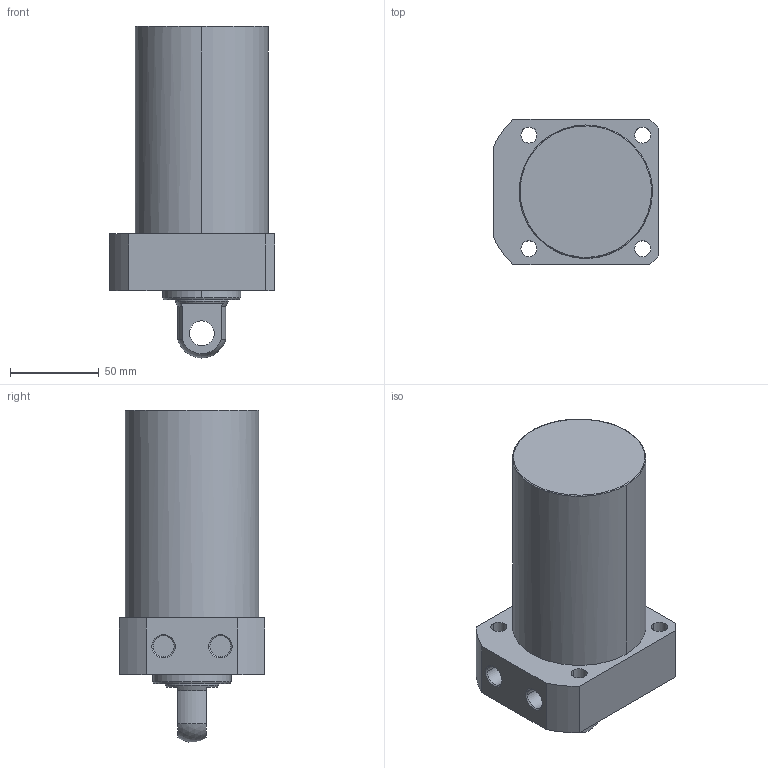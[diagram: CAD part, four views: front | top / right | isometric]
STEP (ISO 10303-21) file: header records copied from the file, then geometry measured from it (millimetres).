
FILE_DESCRIPTION((' '),'2;1');
FILE_NAME( 'TLLR-075CP-080.STEP.stp', '2025-10-24T16:35:14', (' '), ('--- Datakit www.datakit.com---'), ' Datakit CrossCadWare V2024.1 Dec 21 2023', 'Mastercam 2025', ' ');
FILE_SCHEMA(('AUTOMOTIVE_DESIGN { 1 0 10303 214 1 1 1 1 }'));
Length unit declared in the file: millimetre
Products named in the file (1): TLLR-075CP-080
Bounding box: 93 x 82 x 186.9 mm (x, y, z)
Volume: 760340.3 mm3; surface area: 60806 mm2
Topology: 1 solids, 1 shells, 57 faces, 164 edges, 116 vertices
Faces by surface type: cylinder 28, plane 18, cone 8, torus 2, sphere 1
Entity records: 2006 total; most frequent: DIRECTION 378, CARTESIAN_POINT 350, ORIENTED_EDGE 328, EDGE_CURVE 164, AXIS2_PLACEMENT_3D 160, VERTEX_POINT 116, CIRCLE 102, EDGE_LOOP 74
